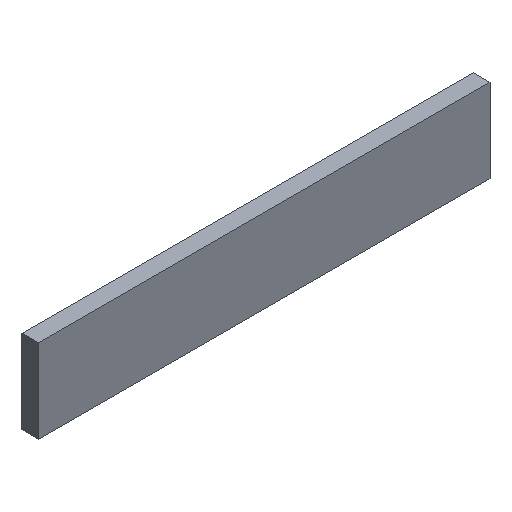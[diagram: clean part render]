
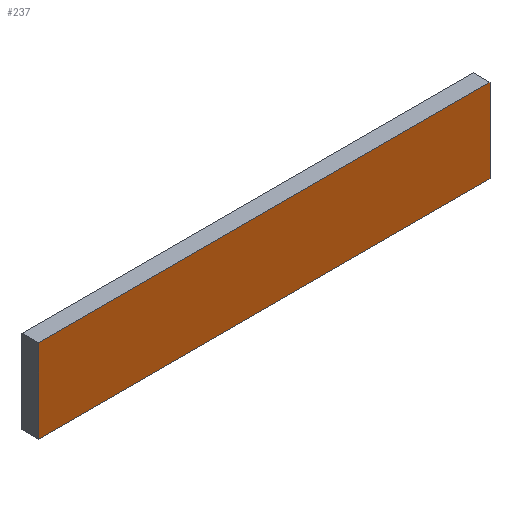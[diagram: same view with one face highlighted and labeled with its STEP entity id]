
A CAD part, isometric view. The second image highlights one B-rep face of the part: STEP entity #237.
In plain terms, the highlighted planar face has unit normal (0, -1, 0).
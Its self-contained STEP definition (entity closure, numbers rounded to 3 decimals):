
#21 = EDGE_CURVE('',#22,#24,#26,.T.);
#22 = VERTEX_POINT('',#23);
#23 = CARTESIAN_POINT('',(-426.,-23.3,2.));
#24 = VERTEX_POINT('',#25);
#25 = CARTESIAN_POINT('',(-426.,-23.3,17.));
#26 = SURFACE_CURVE('',#27,(#31,#43),.PCURVE_S1.);
#27 = LINE('',#28,#29);
#28 = CARTESIAN_POINT('',(-426.,-23.3,2.));
#29 = VECTOR('',#30,1.);
#30 = DIRECTION('',(0.,0.,1.));
#31 = PCURVE('',#32,#37);
#32 = PLANE('',#33);
#33 = AXIS2_PLACEMENT_3D('',#34,#35,#36);
#34 = CARTESIAN_POINT('',(-426.,-23.3,2.));
#35 = DIRECTION('',(1.,0.,-0.));
#36 = DIRECTION('',(0.,0.,1.));
#37 = DEFINITIONAL_REPRESENTATION('',(#38),#42);
#38 = LINE('',#39,#40);
#39 = CARTESIAN_POINT('',(0.,0.));
#40 = VECTOR('',#41,1.);
#41 = DIRECTION('',(1.,0.));
#42 = ( GEOMETRIC_REPRESENTATION_CONTEXT(2) 
PARAMETRIC_REPRESENTATION_CONTEXT() REPRESENTATION_CONTEXT('2D SPACE',''
  ) );
#43 = PCURVE('',#44,#49);
#44 = PLANE('',#45);
#45 = AXIS2_PLACEMENT_3D('',#46,#47,#48);
#46 = CARTESIAN_POINT('',(-426.,-23.3,2.));
#47 = DIRECTION('',(-0.,1.,0.));
#48 = DIRECTION('',(0.,0.,1.));
#49 = DEFINITIONAL_REPRESENTATION('',(#50),#54);
#50 = LINE('',#51,#52);
#51 = CARTESIAN_POINT('',(0.,0.));
#52 = VECTOR('',#53,1.);
#53 = DIRECTION('',(1.,0.));
#54 = ( GEOMETRIC_REPRESENTATION_CONTEXT(2) 
PARAMETRIC_REPRESENTATION_CONTEXT() REPRESENTATION_CONTEXT('2D SPACE',''
  ) );
#72 = PLANE('',#73);
#73 = AXIS2_PLACEMENT_3D('',#74,#75,#76);
#74 = CARTESIAN_POINT('',(-426.,-23.3,2.));
#75 = DIRECTION('',(0.,0.,1.));
#76 = DIRECTION('',(1.,0.,-0.));
#126 = PLANE('',#127);
#127 = AXIS2_PLACEMENT_3D('',#128,#129,#130);
#128 = CARTESIAN_POINT('',(-426.,-23.3,17.));
#129 = DIRECTION('',(0.,0.,1.));
#130 = DIRECTION('',(1.,0.,-0.));
#141 = EDGE_CURVE('',#142,#144,#146,.T.);
#142 = VERTEX_POINT('',#143);
#143 = CARTESIAN_POINT('',(-345.,-23.3,2.));
#144 = VERTEX_POINT('',#145);
#145 = CARTESIAN_POINT('',(-345.,-23.3,17.));
#146 = SURFACE_CURVE('',#147,(#151,#163),.PCURVE_S1.);
#147 = LINE('',#148,#149);
#148 = CARTESIAN_POINT('',(-345.,-23.3,2.));
#149 = VECTOR('',#150,1.);
#150 = DIRECTION('',(0.,0.,1.));
#151 = PCURVE('',#152,#157);
#152 = PLANE('',#153);
#153 = AXIS2_PLACEMENT_3D('',#154,#155,#156);
#154 = CARTESIAN_POINT('',(-345.,-23.3,2.));
#155 = DIRECTION('',(1.,0.,-0.));
#156 = DIRECTION('',(0.,0.,1.));
#157 = DEFINITIONAL_REPRESENTATION('',(#158),#162);
#158 = LINE('',#159,#160);
#159 = CARTESIAN_POINT('',(0.,0.));
#160 = VECTOR('',#161,1.);
#161 = DIRECTION('',(1.,0.));
#162 = ( GEOMETRIC_REPRESENTATION_CONTEXT(2) 
PARAMETRIC_REPRESENTATION_CONTEXT() REPRESENTATION_CONTEXT('2D SPACE',''
  ) );
#163 = PCURVE('',#44,#164);
#164 = DEFINITIONAL_REPRESENTATION('',(#165),#169);
#165 = LINE('',#166,#167);
#166 = CARTESIAN_POINT('',(0.,81.));
#167 = VECTOR('',#168,1.);
#168 = DIRECTION('',(1.,0.));
#169 = ( GEOMETRIC_REPRESENTATION_CONTEXT(2) 
PARAMETRIC_REPRESENTATION_CONTEXT() REPRESENTATION_CONTEXT('2D SPACE',''
  ) );
#237 = ADVANCED_FACE('',(#238),#44,.F.);
#238 = FACE_BOUND('',#239,.F.);
#239 = EDGE_LOOP('',(#240,#261,#262,#283));
#240 = ORIENTED_EDGE('',*,*,#241,.F.);
#241 = EDGE_CURVE('',#22,#142,#242,.T.);
#242 = SURFACE_CURVE('',#243,(#247,#254),.PCURVE_S1.);
#243 = LINE('',#244,#245);
#244 = CARTESIAN_POINT('',(-426.,-23.3,2.));
#245 = VECTOR('',#246,1.);
#246 = DIRECTION('',(1.,0.,-0.));
#247 = PCURVE('',#44,#248);
#248 = DEFINITIONAL_REPRESENTATION('',(#249),#253);
#249 = LINE('',#250,#251);
#250 = CARTESIAN_POINT('',(0.,0.));
#251 = VECTOR('',#252,1.);
#252 = DIRECTION('',(0.,1.));
#253 = ( GEOMETRIC_REPRESENTATION_CONTEXT(2) 
PARAMETRIC_REPRESENTATION_CONTEXT() REPRESENTATION_CONTEXT('2D SPACE',''
  ) );
#254 = PCURVE('',#72,#255);
#255 = DEFINITIONAL_REPRESENTATION('',(#256),#260);
#256 = LINE('',#257,#258);
#257 = CARTESIAN_POINT('',(0.,0.));
#258 = VECTOR('',#259,1.);
#259 = DIRECTION('',(1.,0.));
#260 = ( GEOMETRIC_REPRESENTATION_CONTEXT(2) 
PARAMETRIC_REPRESENTATION_CONTEXT() REPRESENTATION_CONTEXT('2D SPACE',''
  ) );
#261 = ORIENTED_EDGE('',*,*,#21,.T.);
#262 = ORIENTED_EDGE('',*,*,#263,.T.);
#263 = EDGE_CURVE('',#24,#144,#264,.T.);
#264 = SURFACE_CURVE('',#265,(#269,#276),.PCURVE_S1.);
#265 = LINE('',#266,#267);
#266 = CARTESIAN_POINT('',(-426.,-23.3,17.));
#267 = VECTOR('',#268,1.);
#268 = DIRECTION('',(1.,0.,-0.));
#269 = PCURVE('',#44,#270);
#270 = DEFINITIONAL_REPRESENTATION('',(#271),#275);
#271 = LINE('',#272,#273);
#272 = CARTESIAN_POINT('',(15.,0.));
#273 = VECTOR('',#274,1.);
#274 = DIRECTION('',(0.,1.));
#275 = ( GEOMETRIC_REPRESENTATION_CONTEXT(2) 
PARAMETRIC_REPRESENTATION_CONTEXT() REPRESENTATION_CONTEXT('2D SPACE',''
  ) );
#276 = PCURVE('',#126,#277);
#277 = DEFINITIONAL_REPRESENTATION('',(#278),#282);
#278 = LINE('',#279,#280);
#279 = CARTESIAN_POINT('',(0.,0.));
#280 = VECTOR('',#281,1.);
#281 = DIRECTION('',(1.,0.));
#282 = ( GEOMETRIC_REPRESENTATION_CONTEXT(2) 
PARAMETRIC_REPRESENTATION_CONTEXT() REPRESENTATION_CONTEXT('2D SPACE',''
  ) );
#283 = ORIENTED_EDGE('',*,*,#141,.F.);
